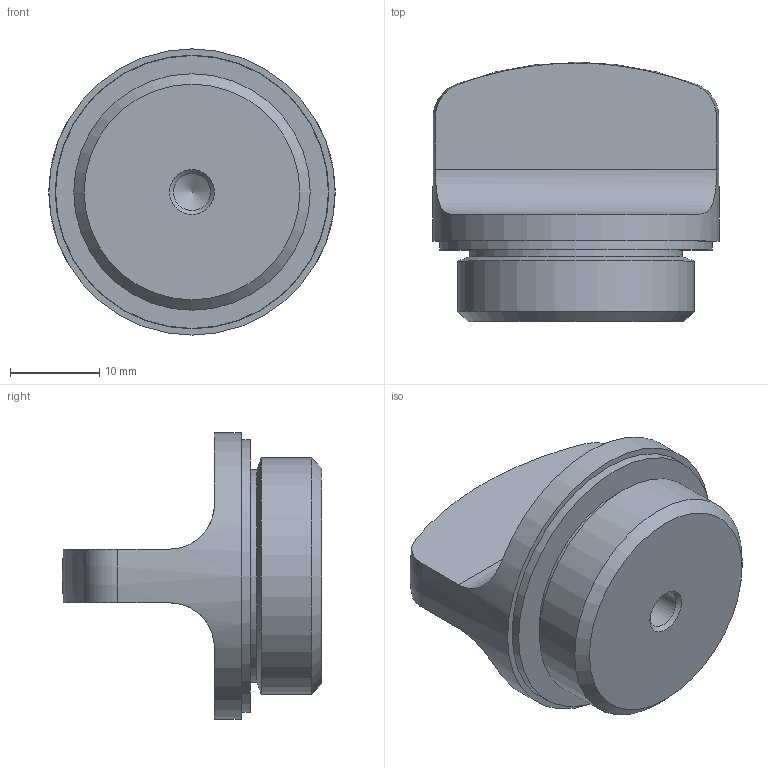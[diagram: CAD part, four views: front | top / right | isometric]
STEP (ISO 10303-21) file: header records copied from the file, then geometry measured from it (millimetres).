
FILE_DESCRIPTION( ( 'STEP AP203' ), '1' );
FILE_NAME( 'C:/Temp/Ganter_Step_05_03_2020/data/3_5/gn441/Threaded plug GN 441-32-G3_4-1-SW.stp', '2020-03-12T13:34:50', ( 'License CC BY-ND 4.0' ), ( 'CADENAS' ), ' ', 'PARTsolutions', ' ' );
FILE_SCHEMA( ( 'CONFIG_CONTROL_DESIGN' ) );
Length unit declared in the file: millimetre
Products named in the file (1): _Threaded plug GN 441-32-G3/4-1-SW
Bounding box: 32 x 29 x 32 mm (x, y, z)
Volume: 10447.4 mm3; surface area: 4615.5 mm2
Topology: 1 solids, 1 shells, 29 faces, 63 edges, 41 vertices
Faces by surface type: cylinder 11, plane 11, cone 4, torus 2, sphere 1
Full cylindrical faces by diameter (mm): 4.134 x1, 23.8 x1, 23.95 x1, 26.441 x1, 27.5 x1, 27.6 x1, 30.5 x1, 30.6 x1, 32 x1
Entity records: 854 total; most frequent: CARTESIAN_POINT 252, DIRECTION 122, ORIENTED_EDGE 86, AXIS2_PLACEMENT_3D 57, EDGE_LOOP 48, EDGE_CURVE 43, FACE_OUTER_BOUND 38, VERTEX_POINT 37
